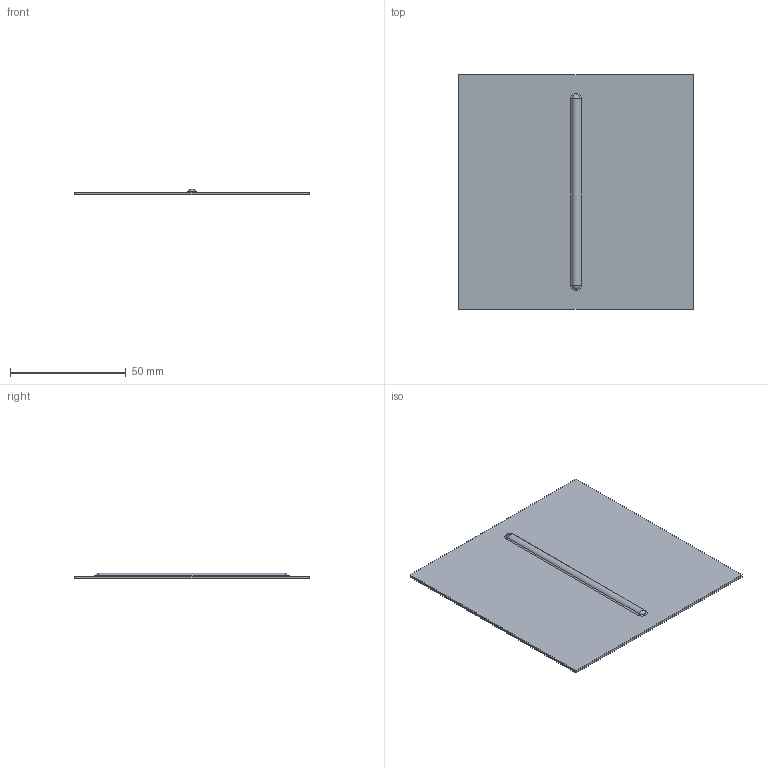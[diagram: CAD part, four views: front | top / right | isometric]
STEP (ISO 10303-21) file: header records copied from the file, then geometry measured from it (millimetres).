
FILE_DESCRIPTION((''),'1');
FILE_NAME('C:/Users/robertnolte/Desktop/WT#216-0278.stp','2012-03-30T22:21:15',(''),(''),'Spatial Interop R21 SP3','Kubotek KeyCreator 2011 V10.5.0 (24766)',' ');
FILE_SCHEMA(('CONFIG_CONTROL_DESIGN'));
Length unit declared in the file: inch
Products named in the file (1): 1
Bounding box: 101.6 x 101.6 x 2.49 mm (x, y, z)
Volume: 12673.8 mm3; surface area: 21285.8 mm2
Topology: 1 solids, 1 shells, 20 faces, 40 edges, 24 vertices
Faces by surface type: cylinder 6, plane 6, sphere 4, torus 4
Entity records: 564 total; most frequent: DIRECTION 102, CARTESIAN_POINT 85, ORIENTED_EDGE 80, AXIS2_PLACEMENT_3D 41, EDGE_CURVE 40, VERTEX_POINT 24, EDGE_LOOP 22, ADVANCED_FACE 20
